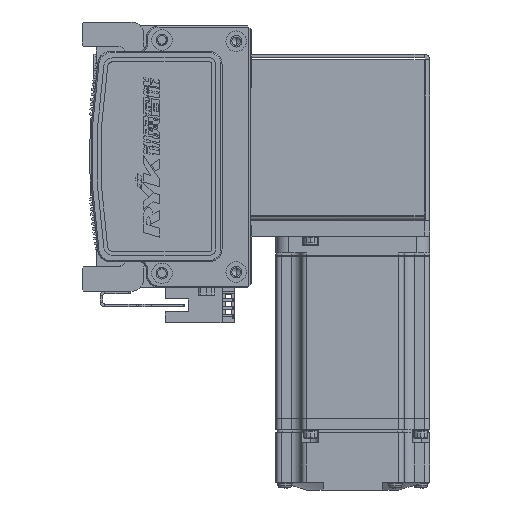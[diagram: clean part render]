
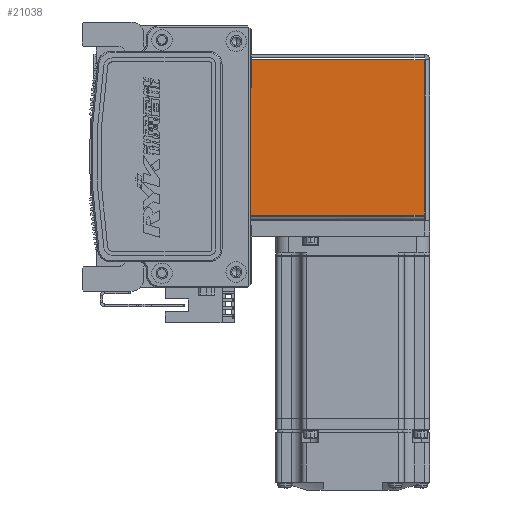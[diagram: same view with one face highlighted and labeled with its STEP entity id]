
A CAD part, left-side view. The second image highlights one B-rep face of the part: STEP entity #21038.
In plain terms, the highlighted planar face has unit normal (-1, 0, 0) as drawn and (0, 0, -1) by its records, which use the part's own axes.
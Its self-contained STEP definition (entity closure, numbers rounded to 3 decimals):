
#645 = CARTESIAN_POINT ( 'NONE',  ( 32.5, 0.737, -35. ) ) ;
#3235 = ORIENTED_EDGE ( 'NONE', *, *, #43787, .T. ) ;
#6630 = LINE ( 'NONE', #30420, #33257 ) ;
#7222 = PLANE ( 'NONE',  #63338 ) ;
#7227 = EDGE_CURVE ( 'NONE', #50517, #21184, #61855, .T. ) ;
#7905 = CARTESIAN_POINT ( 'NONE',  ( 0., 0., -35. ) ) ;
#14413 = CARTESIAN_POINT ( 'NONE',  ( 30.263, 72.5, -35. ) ) ;
#17672 = VECTOR ( 'NONE', #44455, 1000. ) ;
#18442 = DIRECTION ( 'NONE',  ( 0., -1., 0. ) ) ;
#18775 = CARTESIAN_POINT ( 'NONE',  ( 0., 72.5, -35. ) ) ;
#18953 = LINE ( 'NONE', #18775, #66417 ) ;
#19466 = DIRECTION ( 'NONE',  ( 1., 0., 0. ) ) ;
#21038 = ADVANCED_FACE ( 'NONE', ( #43576 ), #7222, .F. ) ;
#21184 = VERTEX_POINT ( 'NONE', #63052 ) ;
#22660 = LINE ( 'NONE', #56045, #17672 ) ;
#25413 = EDGE_CURVE ( 'NONE', #30738, #41217, #18953, .T. ) ;
#28013 = EDGE_LOOP ( 'NONE', ( #3235, #49842, #35465, #37856 ) ) ;
#30420 = CARTESIAN_POINT ( 'NONE',  ( 30.263, 72.5, -35. ) ) ;
#30738 = VERTEX_POINT ( 'NONE', #64347 ) ;
#31454 = CARTESIAN_POINT ( 'NONE',  ( -30.293, 0.737, -35. ) ) ;
#32754 = DIRECTION ( 'NONE',  ( 1., 0., 0. ) ) ;
#33257 = VECTOR ( 'NONE', #39974, 1000. ) ;
#34433 = DIRECTION ( 'NONE',  ( 0., 0., 1. ) ) ;
#35465 = ORIENTED_EDGE ( 'NONE', *, *, #69084, .T. ) ;
#37856 = ORIENTED_EDGE ( 'NONE', *, *, #25413, .T. ) ;
#39974 = DIRECTION ( 'NONE',  ( 0., -1., 0. ) ) ;
#41217 = VERTEX_POINT ( 'NONE', #14413 ) ;
#43576 = FACE_OUTER_BOUND ( 'NONE', #28013, .T. ) ;
#43787 = EDGE_CURVE ( 'NONE', #41217, #21184, #6630, .T. ) ;
#44455 = DIRECTION ( 'NONE',  ( 0., 1., 0. ) ) ;
#49842 = ORIENTED_EDGE ( 'NONE', *, *, #7227, .F. ) ;
#50517 = VERTEX_POINT ( 'NONE', #31454 ) ;
#54496 = VECTOR ( 'NONE', #32754, 1000. ) ;
#56045 = CARTESIAN_POINT ( 'NONE',  ( -30.293, 0., -35. ) ) ;
#61855 = LINE ( 'NONE', #645, #54496 ) ;
#63052 = CARTESIAN_POINT ( 'NONE',  ( 30.263, 0.737, -35. ) ) ;
#63338 = AXIS2_PLACEMENT_3D ( 'NONE', #7905, #34433, #18442 ) ;
#64347 = CARTESIAN_POINT ( 'NONE',  ( -30.293, 72.5, -35. ) ) ;
#66417 = VECTOR ( 'NONE', #19466, 1000. ) ;
#69084 = EDGE_CURVE ( 'NONE', #50517, #30738, #22660, .T. ) ;
